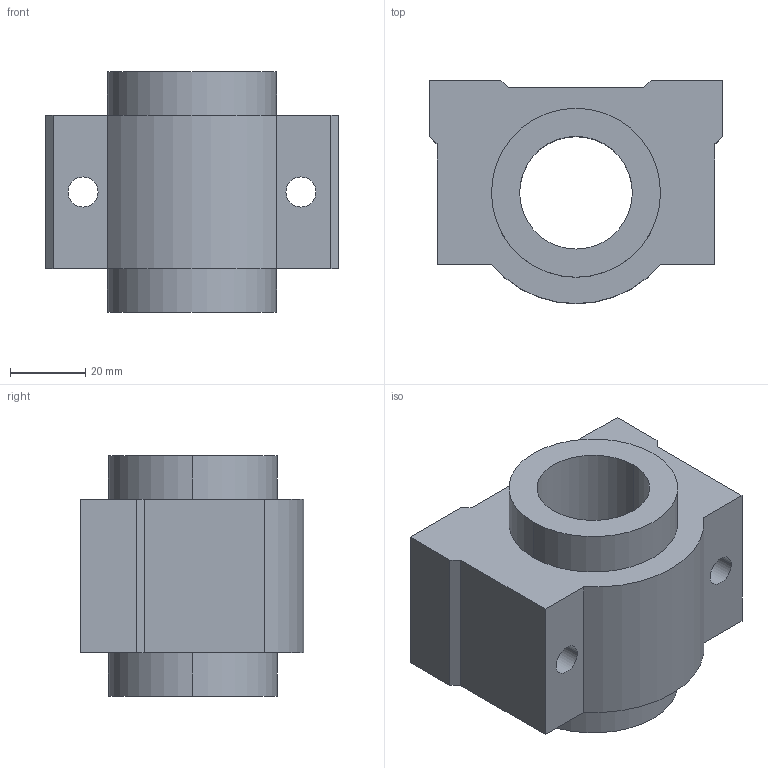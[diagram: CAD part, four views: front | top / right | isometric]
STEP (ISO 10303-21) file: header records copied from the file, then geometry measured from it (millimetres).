
FILE_DESCRIPTION((''),'2;1');
FILE_NAME('C:\Documents and Settings\ｿﾀﾀ蠑ｷ1\ｹﾙﾅﾁ ﾈｭｸ饅\ｺﾎﾇｰﾆﾄﾀﾏ\ﾁｦﾇｰ\SC__VUUN\SC30VUUN.stp','2005-06-22T11:23:50',('ｿﾀﾀ蠑ｷ1'),(''),'Autodesk Inventor 9','Autodesk Inventor 9','');
FILE_SCHEMA(('AUTOMOTIVE_DESIGN { 1 0 10303 214 1 1 1 1 }'));
Length unit declared in the file: millimetre
Products named in the file (1): SC__VUUN
Bounding box: 78 x 59.5 x 64 mm (x, y, z)
Volume: 147852 mm3; surface area: 28648.2 mm2
Topology: 1 solids, 1 shells, 28 faces, 72 edges, 48 vertices
Faces by surface type: plane 17, cylinder 7, bspline 4
Entity records: 945 total; most frequent: CARTESIAN_POINT 217, DIRECTION 144, ORIENTED_EDGE 144, EDGE_CURVE 72, VECTOR 50, LINE 50, VERTEX_POINT 48, AXIS2_PLACEMENT_3D 47
